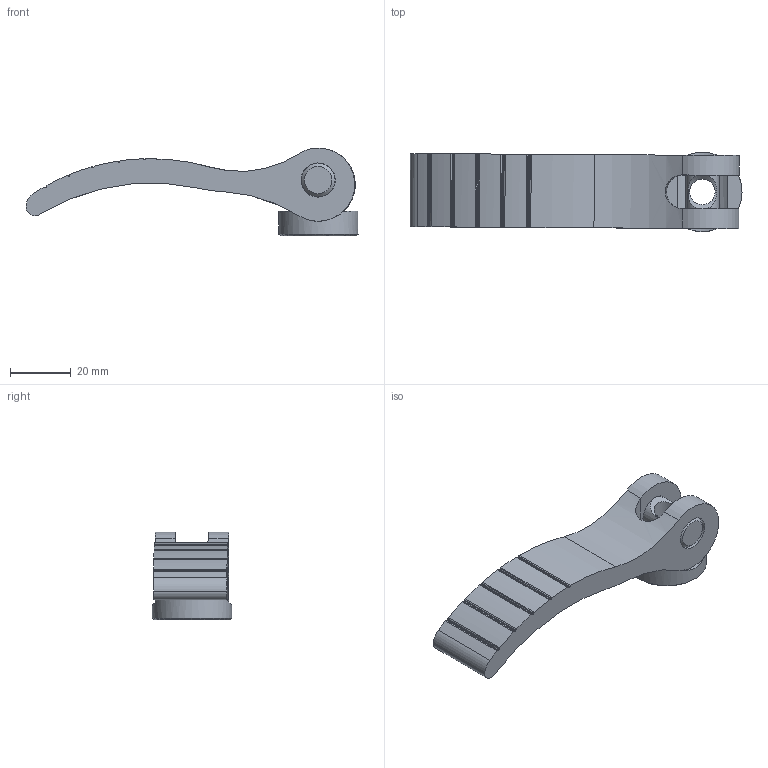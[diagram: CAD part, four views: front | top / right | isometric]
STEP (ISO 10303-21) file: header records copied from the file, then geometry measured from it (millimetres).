
FILE_DESCRIPTION(('STEP AP203'), '1');
FILE_NAME('À00360.111081000 _ Ýêñöåíòðèê 108 ìì', '', ('UNSPECIFIED'), ('UNSPECIFIED'), 'C3D Converter', 'C3D Toolkit', '');
FILE_SCHEMA(('CONFIG_CONTROL_DESIGN'));
Length unit declared in the file: millimetre
Products named in the file (4): А00360.108.03; А00360.108.02; А00360.108.01
Assembly tree (3 placements, depth 2):
  (unnamed)
    А00360.108.03
    А00360.108.02
    А00360.108.01
Bounding box: 108.87 x 26 x 28.77 mm (x, y, z)
Volume: 25913.3 mm3; surface area: 11253.5 mm2
Topology: 3 solids, 3 shells, 61 faces, 162 edges, 107 vertices
Faces by surface type: cylinder 37, plane 19, cone 3, bspline 2
Full cylindrical faces by diameter (mm): 8.376 x1, 10.5 x1, 11 x1, 11.2 x2, 26 x1
Entity records: 3881 total; most frequent: CARTESIAN_POINT 2159, DIRECTION 338, ORIENTED_EDGE 298, EDGE_CURVE 149, AXIS2_PLACEMENT_3D 137, VERTEX_POINT 105, EDGE_LOOP 80, CIRCLE 74
